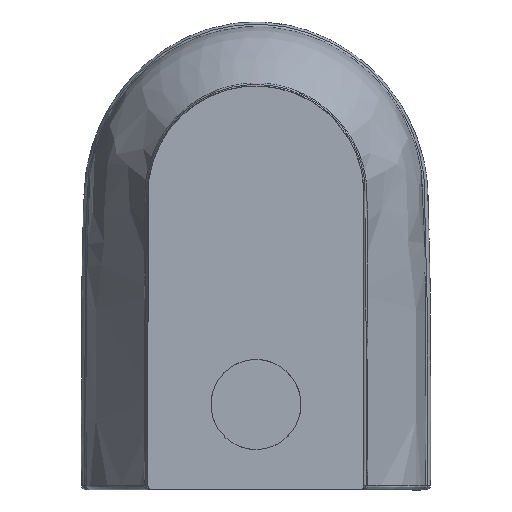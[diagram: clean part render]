
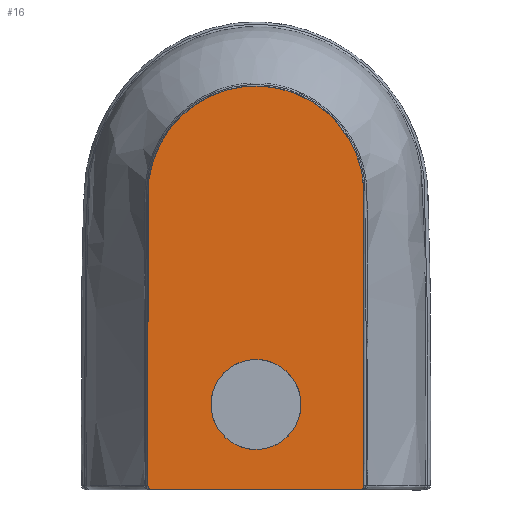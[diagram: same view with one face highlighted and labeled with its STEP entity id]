
A CAD part, front view. The second image highlights one B-rep face of the part: STEP entity #16.
In plain terms, the highlighted planar face has unit normal (0, -1, 0).
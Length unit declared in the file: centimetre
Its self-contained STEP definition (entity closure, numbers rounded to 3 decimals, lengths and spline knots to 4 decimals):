
#16=ADVANCED_FACE('',(#125,#117),#1522,.T.);
#117=FACE_BOUND('',#228,.T.);
#125=FACE_OUTER_BOUND('',#227,.T.);
#227=EDGE_LOOP('',(#341,#342,#343,#344));
#228=EDGE_LOOP('',(#345,#346));
#341=ORIENTED_EDGE('',*,*,#821,.T.);
#342=ORIENTED_EDGE('',*,*,#946,.T.);
#343=ORIENTED_EDGE('',*,*,#816,.T.);
#344=ORIENTED_EDGE('',*,*,#1036,.T.);
#345=ORIENTED_EDGE('',*,*,#924,.T.);
#346=ORIENTED_EDGE('',*,*,#925,.T.);
#816=EDGE_CURVE('',#1307,#1308,#1203,.T.);
#821=EDGE_CURVE('',#1305,#1306,#1208,.T.);
#924=EDGE_CURVE('',#1310,#1309,#1112,.T.);
#925=EDGE_CURVE('',#1309,#1310,#1113,.T.);
#946=EDGE_CURVE('',#1306,#1307,#1133,.T.);
#1036=EDGE_CURVE('',#1308,#1305,#1195,.T.);
#1112=(
BOUNDED_CURVE()
B_SPLINE_CURVE(2,(#16442,#16443,#16444,#16445,#16446),.UNSPECIFIED.,.F.,
 .F.)
B_SPLINE_CURVE_WITH_KNOTS((3,2,3),(-0.1571,-0.0785,
0.),.UNSPECIFIED.)
CURVE()
GEOMETRIC_REPRESENTATION_ITEM()
RATIONAL_B_SPLINE_CURVE((1.,0.707,1.,0.707,1.))
REPRESENTATION_ITEM('')
);
#1113=(
BOUNDED_CURVE()
B_SPLINE_CURVE(2,(#16447,#16448,#16449,#16450,#16451),.UNSPECIFIED.,.F.,
 .F.)
B_SPLINE_CURVE_WITH_KNOTS((3,2,3),(-0.3142,-0.2356,
-0.1571),.UNSPECIFIED.)
CURVE()
GEOMETRIC_REPRESENTATION_ITEM()
RATIONAL_B_SPLINE_CURVE((1.,0.707,1.,0.707,1.))
REPRESENTATION_ITEM('')
);
#1133=(
BOUNDED_CURVE()
B_SPLINE_CURVE(2,(#16988,#16989,#16990),.UNSPECIFIED.,.F.,.F.)
B_SPLINE_CURVE_WITH_KNOTS((3,3),(-0.01,0.),.UNSPECIFIED.)
CURVE()
GEOMETRIC_REPRESENTATION_ITEM()
RATIONAL_B_SPLINE_CURVE((1.,0.707,1.))
REPRESENTATION_ITEM('')
);
#1195=(
BOUNDED_CURVE()
B_SPLINE_CURVE(2,(#18949,#18950,#18951),.UNSPECIFIED.,.F.,.F.)
B_SPLINE_CURVE_WITH_KNOTS((3,3),(-0.01,0.),.UNSPECIFIED.)
CURVE()
GEOMETRIC_REPRESENTATION_ITEM()
RATIONAL_B_SPLINE_CURVE((1.,0.707,1.))
REPRESENTATION_ITEM('')
);
#1203=B_SPLINE_CURVE_WITH_KNOTS('',1,(#13470,#13471),.UNSPECIFIED.,.F.,
 .F.,(2,2),(-1.,0.),.UNSPECIFIED.);
#1208=B_SPLINE_CURVE_WITH_KNOTS('',3,(#13480,#13481,#13482,#13483,#13484,
#13485,#13486,#13487,#13488,#13489,#13490,#13491,#13492,#13493,#13494,#13495,
#13496,#13497,#13498,#13499,#13500,#13501,#13502,#13503,#13504,#13505,#13506,
#13507,#13508,#13509,#13510,#13511,#13512,#13513,#13514,#13515,#13516,#13517,
#13518,#13519,#13520,#13521,#13522,#13523),.UNSPECIFIED.,.F.,.F.,(4,1,1,
2,1,1,1,1,1,1,1,1,1,1,1,1,1,1,1,2,1,1,1,1,1,1,1,1,1,1,1,1,1,1,1,2,1,1,4),
(-243.474,-225.751,-199.009,-172.267,
-169.1089,-165.9508,-159.6345,-153.3183,
-150.1601,-147.002,-143.8439,-140.6858,
-137.5276,-135.9486,-134.3695,-131.2114,
-128.0533,-126.4742,-124.8951,-121.737,-118.5789,
-116.9998,-115.4207,-112.2626,-109.1045,-107.5254,
-105.9464,-102.7882,-99.6301,-96.472,
-93.3139,-90.1557,-83.8395,-77.5232,
-74.3651,-71.207,-44.465,-17.723,
0.),.UNSPECIFIED.);
#1305=VERTEX_POINT('',#13282);
#1306=VERTEX_POINT('',#13283);
#1307=VERTEX_POINT('',#13284);
#1308=VERTEX_POINT('',#13285);
#1309=VERTEX_POINT('',#13286);
#1310=VERTEX_POINT('',#13287);
#1522=PLANE('',#1569);
#1569=AXIS2_PLACEMENT_3D('',#2487,#1591,$);
#1591=DIRECTION('',(0.,-1.,0.));
#2487=CARTESIAN_POINT('',(-0.1301,-0.42,0.6209));
#13282=CARTESIAN_POINT('',(0.12,-0.42,0.1662));
#13283=CARTESIAN_POINT('',(-0.12,-0.42,0.1662));
#13284=CARTESIAN_POINT('',(-0.115,-0.42,0.1612));
#13285=CARTESIAN_POINT('',(0.115,-0.42,0.1612));
#13286=CARTESIAN_POINT('',(0.,-0.42,0.2062));
#13287=CARTESIAN_POINT('',(0.,-0.42,0.3062));
#13470=CARTESIAN_POINT('',(-0.115,-0.42,0.1612));
#13471=CARTESIAN_POINT('',(0.115,-0.42,0.1612));
#13480=CARTESIAN_POINT('',(0.12,-0.42,0.1662));
#13481=CARTESIAN_POINT('',(0.12,-0.42,0.1938));
#13482=CARTESIAN_POINT('',(0.12,-0.42,0.2632));
#13483=CARTESIAN_POINT('',(0.12,-0.42,0.3726));
#13484=CARTESIAN_POINT('',(0.12,-0.42,0.4516));
#13485=CARTESIAN_POINT('',(0.12,-0.42,0.4945));
#13486=CARTESIAN_POINT('',(0.1195,-0.42,0.5034));
#13487=CARTESIAN_POINT('',(0.1167,-0.42,0.5203));
#13488=CARTESIAN_POINT('',(0.1101,-0.42,0.5397));
#13489=CARTESIAN_POINT('',(0.1002,-0.42,0.5568));
#13490=CARTESIAN_POINT('',(0.0907,-0.42,0.5689));
#13491=CARTESIAN_POINT('',(0.0828,-0.42,0.5771));
#13492=CARTESIAN_POINT('',(0.0742,-0.42,0.5845));
#13493=CARTESIAN_POINT('',(0.065,-0.42,0.5911));
#13494=CARTESIAN_POINT('',(0.0568,-0.42,0.5958));
#13495=CARTESIAN_POINT('',(0.0501,-0.42,0.5991));
#13496=CARTESIAN_POINT('',(0.0432,-0.42,0.6021));
#13497=CARTESIAN_POINT('',(0.0342,-0.42,0.6052));
#13498=CARTESIAN_POINT('',(0.025,-0.42,0.6075));
#13499=CARTESIAN_POINT('',(0.0174,-0.42,0.6088));
#13500=CARTESIAN_POINT('',(0.0098,-0.42,0.6097));
#13501=CARTESIAN_POINT('',(0.0039,-0.42,0.61));
#13502=CARTESIAN_POINT('',(-0.0039,-0.42,0.61));
#13503=CARTESIAN_POINT('',(-0.0098,-0.42,0.6097));
#13504=CARTESIAN_POINT('',(-0.0174,-0.42,0.6088));
#13505=CARTESIAN_POINT('',(-0.025,-0.42,0.6075));
#13506=CARTESIAN_POINT('',(-0.0342,-0.42,0.6052));
#13507=CARTESIAN_POINT('',(-0.0432,-0.42,0.6021));
#13508=CARTESIAN_POINT('',(-0.0501,-0.42,0.5991));
#13509=CARTESIAN_POINT('',(-0.0568,-0.42,0.5958));
#13510=CARTESIAN_POINT('',(-0.065,-0.42,0.5911));
#13511=CARTESIAN_POINT('',(-0.0742,-0.42,0.5845));
#13512=CARTESIAN_POINT('',(-0.0828,-0.42,0.5771));
#13513=CARTESIAN_POINT('',(-0.0907,-0.42,0.5689));
#13514=CARTESIAN_POINT('',(-0.1002,-0.42,0.5568));
#13515=CARTESIAN_POINT('',(-0.1101,-0.42,0.5397));
#13516=CARTESIAN_POINT('',(-0.1167,-0.42,0.5203));
#13517=CARTESIAN_POINT('',(-0.1195,-0.42,0.5034));
#13518=CARTESIAN_POINT('',(-0.12,-0.42,0.4945));
#13519=CARTESIAN_POINT('',(-0.12,-0.42,0.4516));
#13520=CARTESIAN_POINT('',(-0.12,-0.42,0.3726));
#13521=CARTESIAN_POINT('',(-0.12,-0.42,0.2632));
#13522=CARTESIAN_POINT('',(-0.12,-0.42,0.1938));
#13523=CARTESIAN_POINT('',(-0.12,-0.42,0.1662));
#16442=CARTESIAN_POINT('',(0.,-0.42,0.3062));
#16443=CARTESIAN_POINT('',(0.05,-0.42,0.3062));
#16444=CARTESIAN_POINT('',(0.05,-0.42,0.2562));
#16445=CARTESIAN_POINT('',(0.05,-0.42,0.2062));
#16446=CARTESIAN_POINT('',(0.,-0.42,0.2062));
#16447=CARTESIAN_POINT('',(0.,-0.42,0.2062));
#16448=CARTESIAN_POINT('',(-0.05,-0.42,0.2062));
#16449=CARTESIAN_POINT('',(-0.05,-0.42,0.2562));
#16450=CARTESIAN_POINT('',(-0.05,-0.42,0.3062));
#16451=CARTESIAN_POINT('',(0.,-0.42,0.3062));
#16988=CARTESIAN_POINT('',(-0.12,-0.42,0.1662));
#16989=CARTESIAN_POINT('',(-0.12,-0.42,0.1612));
#16990=CARTESIAN_POINT('',(-0.115,-0.42,0.1612));
#18949=CARTESIAN_POINT('',(0.115,-0.42,0.1612));
#18950=CARTESIAN_POINT('',(0.12,-0.42,0.1612));
#18951=CARTESIAN_POINT('',(0.12,-0.42,0.1662));
